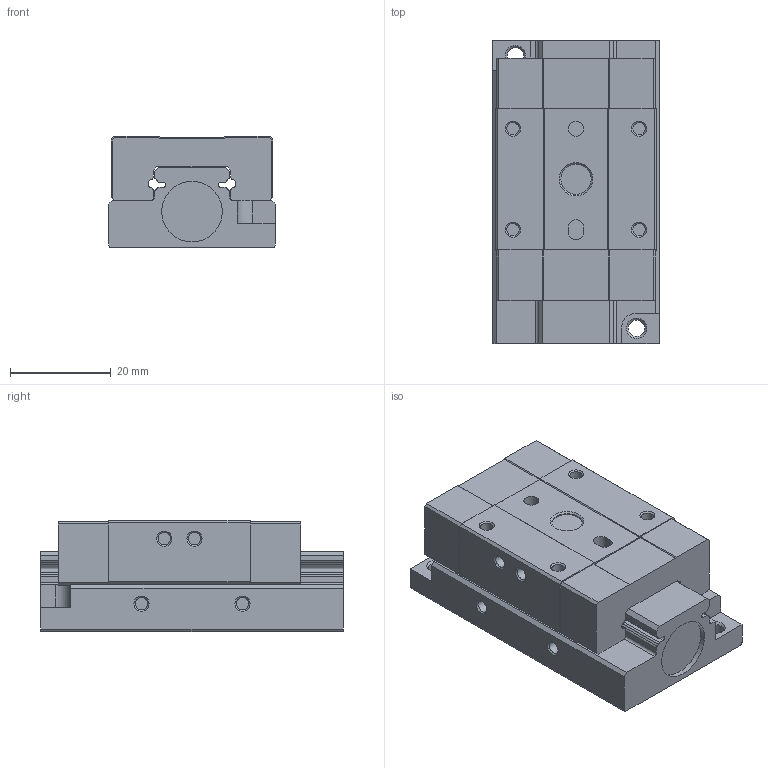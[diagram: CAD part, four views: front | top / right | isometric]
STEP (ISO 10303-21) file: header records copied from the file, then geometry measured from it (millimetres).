
FILE_DESCRIPTION(/* description */ ('STEP AP214'),/* implementation_level */ '2;1');
FILE_NAME(/* name */ 'HGS12X5(0)',/* time_stamp */ '2024-09-22T10:27:45+02:00',/* author */ ('License CC BY-ND 4.0'),/* organization */ ('CADENAS'),/* preprocessor_version */ 'ST-DEVELOPER v19.3',/* originating_system */ 'PARTsolutions',/* authorisation */ ' ');
FILE_SCHEMA (('AUTOMOTIVE_DESIGN {1 0 10303 214 3 1 1}'));
Length unit declared in the file: millimetre
Products named in the file (4): HGS12X5(0); HGS12X5(0)_dummy; HGS12X5(0)_body; HGS12X5(0)_t
Assembly tree (3 placements, depth 2):
  HGS12X5(0)
    HGS12X5(0)_dummy
    HGS12X5(0)_body
    HGS12X5(0)_t
Bounding box: 33 x 60 x 22 mm (x, y, z)
Volume: 36469.3 mm3; surface area: 13813.6 mm2
Topology: 2 solids, 2 shells, 170 faces, 416 edges, 273 vertices
Faces by surface type: plane 96, cylinder 56, cone 18
Full cylindrical faces by diameter (mm): 2.459 x12, 3 x2, 3.242 x2, 4.134 x2, 6 x2, 12 x2
Entity records: 4894 total; most frequent: DIRECTION 852, CARTESIAN_POINT 819, ORIENTED_EDGE 748, EDGE_CURVE 374, AXIS2_PLACEMENT_3D 304, VERTEX_POINT 270, LINE 244, VECTOR 244
